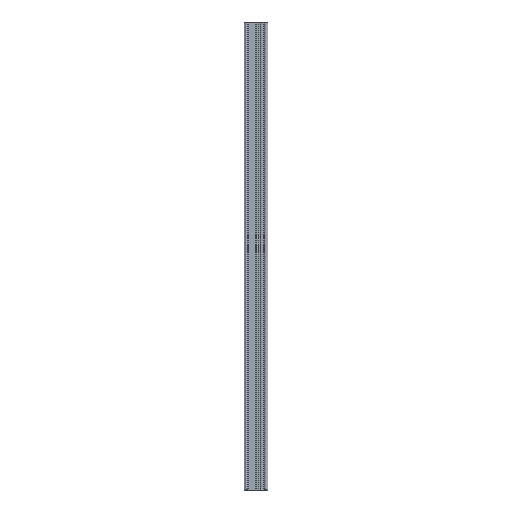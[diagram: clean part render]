
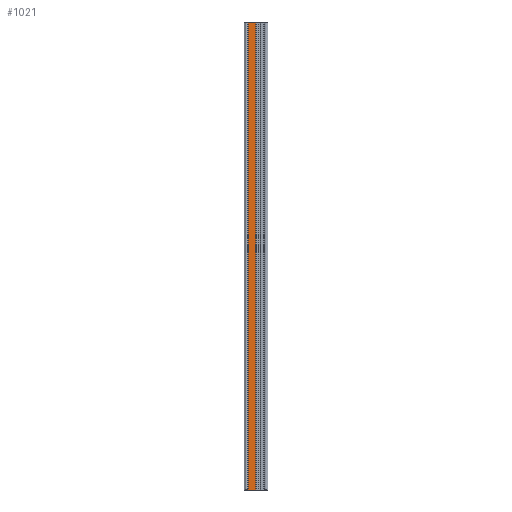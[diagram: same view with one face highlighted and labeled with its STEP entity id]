
A CAD part, left-side view. The second image highlights one B-rep face of the part: STEP entity #1021.
In plain terms, the highlighted planar face has unit normal (-1, 0, 0).
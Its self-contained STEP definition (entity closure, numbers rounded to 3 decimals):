
#1013 = VERTEX_POINT ( 'NONE', #3460 ) ;
#1016 = EDGE_CURVE ( 'NONE', #1017, #1013, #3440, .T. ) ;
#1017 = VERTEX_POINT ( 'NONE', #3436 ) ;
#1021 = ADVANCED_FACE ( 'NONE', ( #3493 ), #3464, .T. ) ;
#1022 = EDGE_LOOP ( 'NONE', ( #1023, #1026, #1236, #1238 ) ) ;
#1023 = ORIENTED_EDGE ( 'NONE', *, *, #1024, .F. ) ;
#1024 = EDGE_CURVE ( 'NONE', #1025, #1013, #3474, .T. ) ;
#1025 = VERTEX_POINT ( 'NONE', #3490 ) ;
#1026 = ORIENTED_EDGE ( 'NONE', *, *, #1027, .F. ) ;
#1027 = EDGE_CURVE ( 'NONE', #1235, #1025, #3489, .T. ) ;
#1235 = VERTEX_POINT ( 'NONE', #4929 ) ;
#1236 = ORIENTED_EDGE ( 'NONE', *, *, #1237, .T. ) ;
#1237 = EDGE_CURVE ( 'NONE', #1235, #1017, #4925, .T. ) ;
#1238 = ORIENTED_EDGE ( 'NONE', *, *, #1016, .T. ) ;
#3436 = CARTESIAN_POINT ( 'NONE',  ( -40., 40.3, -799. ) ) ;
#3437 = DIRECTION ( 'NONE',  ( 0., 0., 1. ) ) ;
#3438 = VECTOR ( 'NONE', #3437, 1000. ) ;
#3439 = CARTESIAN_POINT ( 'NONE',  ( -40., 40.3, -799. ) ) ;
#3440 = LINE ( 'NONE', #3439, #3438 ) ;
#3460 = CARTESIAN_POINT ( 'NONE',  ( -40., 40.3, 799. ) ) ;
#3464 = PLANE ( 'NONE',  #3482 ) ;
#3469 = VECTOR ( 'NONE', #3491, 1000. ) ;
#3470 = CARTESIAN_POINT ( 'NONE',  ( -40., 40.3, 799. ) ) ;
#3471 = DIRECTION ( 'NONE',  ( 0., 0., 1. ) ) ;
#3472 = VECTOR ( 'NONE', #3471, 1000. ) ;
#3473 = CARTESIAN_POINT ( 'NONE',  ( -40., 67.222, -799. ) ) ;
#3474 = LINE ( 'NONE', #3470, #3469 ) ;
#3479 = DIRECTION ( 'NONE',  ( 0., -1., 0. ) ) ;
#3480 = DIRECTION ( 'NONE',  ( -1., 0., 0. ) ) ;
#3481 = CARTESIAN_POINT ( 'NONE',  ( -40., 40.3, -799. ) ) ;
#3482 = AXIS2_PLACEMENT_3D ( 'NONE', #3481, #3480, #3479 ) ;
#3489 = LINE ( 'NONE', #3473, #3472 ) ;
#3490 = CARTESIAN_POINT ( 'NONE',  ( -40., 67.222, 799. ) ) ;
#3491 = DIRECTION ( 'NONE',  ( 0., -1., 0. ) ) ;
#3493 = FACE_OUTER_BOUND ( 'NONE', #1022, .T. ) ;
#4921 = DIRECTION ( 'NONE',  ( 0., -1., 0. ) ) ;
#4922 = VECTOR ( 'NONE', #4921, 1000. ) ;
#4924 = CARTESIAN_POINT ( 'NONE',  ( -40., 40.3, -799. ) ) ;
#4925 = LINE ( 'NONE', #4924, #4922 ) ;
#4929 = CARTESIAN_POINT ( 'NONE',  ( -40., 67.222, -799. ) ) ;
